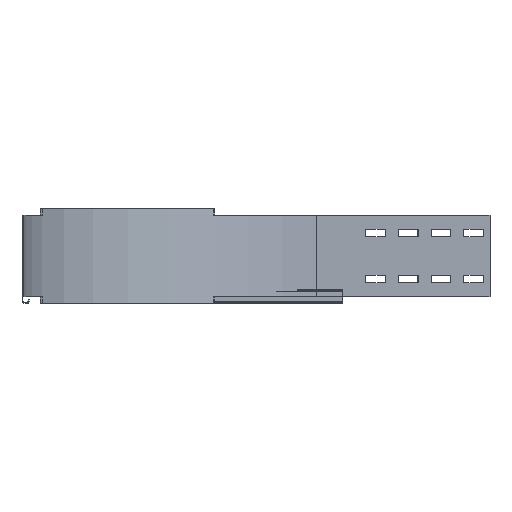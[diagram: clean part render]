
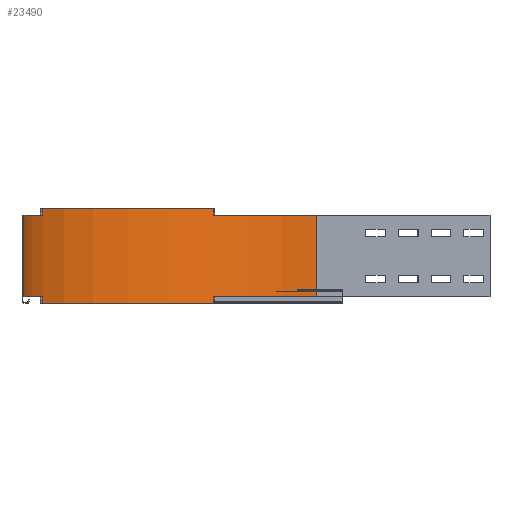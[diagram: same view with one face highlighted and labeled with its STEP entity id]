
A CAD part, left-side view. The second image highlights one B-rep face of the part: STEP entity #23490.
In plain terms, the highlighted cylindrical face has radius 447 mm (diameter 894 mm), a partial arc.
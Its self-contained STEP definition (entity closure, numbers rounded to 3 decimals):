
#920=CARTESIAN_POINT('',(418.993,-294.263,0.));
#930=VERTEX_POINT('',#920);
#960=CARTESIAN_POINT('',(0.,-450.,0.));
#970=DIRECTION('',(0.,0.,1.));
#980=DIRECTION('',(0.937,0.348,0.));
#990=AXIS2_PLACEMENT_3D('',#960,#970,#980);
#1000=CIRCLE('',#990,447.);
#1010=CARTESIAN_POINT('',(155.737,-31.007,0.));
#1020=VERTEX_POINT('',#1010);
#1030=EDGE_CURVE('',#930,#1020,#1000,.T.);
#3000=CARTESIAN_POINT('',(447.,-450.,-10.));
#3010=VERTEX_POINT('',#3000);
#3060=CARTESIAN_POINT('',(0.,-450.,-10.));
#3070=DIRECTION('',(0.,0.,-1.));
#3080=DIRECTION('',(0.937,0.348,0.));
#3090=AXIS2_PLACEMENT_3D('',#3060,#3070,#3080);
#3100=CIRCLE('',#3090,447.);
#3110=CARTESIAN_POINT('',(418.993,-294.263,-10.));
#3120=VERTEX_POINT('',#3110);
#3130=EDGE_CURVE('',#3120,#3010,#3100,.T.);
#3540=CARTESIAN_POINT('',(0.,-450.,-145.));
#3550=DIRECTION('',(0.,0.,1.));
#3560=DIRECTION('',(0.937,0.348,0.));
#3570=AXIS2_PLACEMENT_3D('',#3540,#3550,#3560);
#3580=CIRCLE('',#3570,447.);
#3590=CARTESIAN_POINT('',(418.993,-294.263,-145.));
#3600=VERTEX_POINT('',#3590);
#3610=CARTESIAN_POINT('',(155.737,-31.007,-145.));
#3620=VERTEX_POINT('',#3610);
#3630=EDGE_CURVE('',#3600,#3620,#3580,.T.);
#3960=CARTESIAN_POINT('',(0.,-450.,-135.));
#3970=DIRECTION('',(0.,0.,1.));
#3980=DIRECTION('',(0.348,0.937,0.));
#3990=AXIS2_PLACEMENT_3D('',#3960,#3970,#3980);
#4000=CIRCLE('',#3990,447.);
#4010=CARTESIAN_POINT('',(155.737,-31.007,-135.));
#4020=VERTEX_POINT('',#4010);
#4030=CARTESIAN_POINT('',(0.,-3.,-135.));
#4040=VERTEX_POINT('',#4030);
#4050=EDGE_CURVE('',#4020,#4040,#4000,.T.);
#13310=CARTESIAN_POINT('',(0.,-3.,0.));
#13320=DIRECTION('',(0.,0.,-1.));
#13330=VECTOR('',#13320,1.);
#13340=LINE('',#13310,#13330);
#13350=CARTESIAN_POINT('',(0.,-3.,-10.));
#13360=VERTEX_POINT('',#13350);
#13370=EDGE_CURVE('',#13360,#4040,#13340,.T.);
#16300=CARTESIAN_POINT('',(447.,-450.,-135.));
#16310=VERTEX_POINT('',#16300);
#16340=CARTESIAN_POINT('',(447.,-450.,0.));
#16350=DIRECTION('',(0.,0.,1.));
#16360=VECTOR('',#16350,1.);
#16370=LINE('',#16340,#16360);
#16380=EDGE_CURVE('',#16310,#3010,#16370,.T.);
#21550=CARTESIAN_POINT('',(418.993,-294.263,0.));
#21560=DIRECTION('',(0.,0.,-1.));
#21570=VECTOR('',#21560,1.);
#21580=LINE('',#21550,#21570);
#21590=EDGE_CURVE('',#930,#3120,#21580,.T.);
#21720=CARTESIAN_POINT('',(155.737,-31.007,-145.));
#21730=DIRECTION('',(0.,0.,1.));
#21740=VECTOR('',#21730,1.);
#21750=LINE('',#21720,#21740);
#21760=EDGE_CURVE('',#3620,#4020,#21750,.T.);
#21900=CARTESIAN_POINT('',(155.737,-31.007,-10.));
#21910=VERTEX_POINT('',#21900);
#21960=CARTESIAN_POINT('',(155.737,-31.007,-10.));
#21970=DIRECTION('',(0.,0.,1.));
#21980=VECTOR('',#21970,1.);
#21990=LINE('',#21960,#21980);
#22000=EDGE_CURVE('',#21910,#1020,#21990,.T.);
#22160=CARTESIAN_POINT('',(418.993,-294.263,-135.));
#22170=VERTEX_POINT('',#22160);
#22200=CARTESIAN_POINT('',(0.,-450.,-135.));
#22210=DIRECTION('',(0.,0.,1.));
#22220=DIRECTION('',(1.,0.,0.));
#22230=AXIS2_PLACEMENT_3D('',#22200,#22210,#22220);
#22240=CIRCLE('',#22230,447.);
#22250=EDGE_CURVE('',#16310,#22170,#22240,.T.);
#23190=CARTESIAN_POINT('',(0.,-450.,-10.));
#23200=DIRECTION('',(0.,0.,1.));
#23210=DIRECTION('',(1.,0.,0.));
#23220=AXIS2_PLACEMENT_3D('',#23190,#23200,#23210);
#23230=CYLINDRICAL_SURFACE('',#23220,447.);
#23240=ORIENTED_EDGE('',*,*,#4050,.F.);
#23250=ORIENTED_EDGE('',*,*,#13370,.T.);
#23260=CARTESIAN_POINT('',(0.,-450.,-10.));
#23270=DIRECTION('',(0.,0.,-1.));
#23280=DIRECTION('',(0.,1.,0.));
#23290=AXIS2_PLACEMENT_3D('',#23260,#23270,#23280);
#23300=CIRCLE('',#23290,447.);
#23310=EDGE_CURVE('',#13360,#21910,#23300,.T.);
#23320=ORIENTED_EDGE('',*,*,#23310,.F.);
#23330=ORIENTED_EDGE('',*,*,#22000,.F.);
#23340=ORIENTED_EDGE('',*,*,#1030,.T.);
#23350=ORIENTED_EDGE('',*,*,#21590,.F.);
#23360=ORIENTED_EDGE('',*,*,#3130,.F.);
#23370=ORIENTED_EDGE('',*,*,#16380,.T.);
#23380=ORIENTED_EDGE('',*,*,#22250,.F.);
#23390=CARTESIAN_POINT('',(418.993,-294.263,-135.));
#23400=DIRECTION('',(0.,0.,-1.));
#23410=VECTOR('',#23400,1.);
#23420=LINE('',#23390,#23410);
#23430=EDGE_CURVE('',#22170,#3600,#23420,.T.);
#23440=ORIENTED_EDGE('',*,*,#23430,.F.);
#23450=ORIENTED_EDGE('',*,*,#3630,.F.);
#23460=ORIENTED_EDGE('',*,*,#21760,.F.);
#23470=EDGE_LOOP('',(#23460,#23450,#23440,#23380,#23370,#23360,#23350,
#23340,#23330,#23320,#23250,#23240));
#23480=FACE_OUTER_BOUND('',#23470,.T.);
#23490=ADVANCED_FACE('',(#23480),#23230,.F.);
